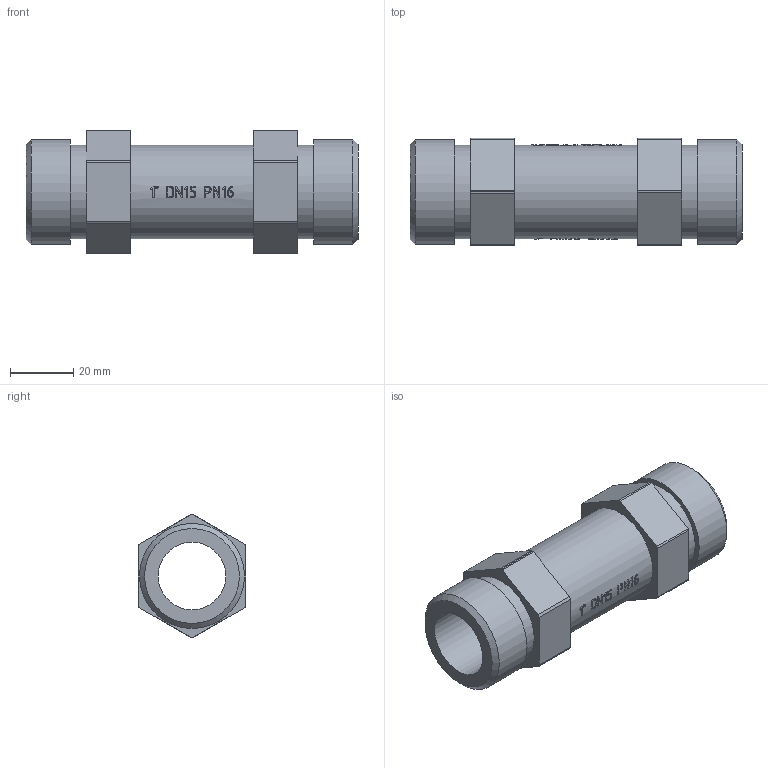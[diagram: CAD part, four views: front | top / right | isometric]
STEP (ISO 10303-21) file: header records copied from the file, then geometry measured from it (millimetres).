
FILE_DESCRIPTION(('TFLEX Exchange Step'),'2;1');
FILE_NAME('Repair insert VTp.789.105.05.stp', '2023-08-31T17:21:34+03:00',('denis'),('Unknown organisation'),'TFLEX Exchange 2023.0','T-FLEX CAD','Unknown authorisation');
FILE_SCHEMA( ('AUTOMOTIVE_DESIGN { 1 0 10303 214 1 1 1 1 }') );
Length unit declared in the file: millimetre
Products named in the file (1): Nodes
Bounding box: 105 x 34 x 38.9 mm (x, y, z)
Volume: 47601.6 mm3; surface area: 20289.6 mm2
Topology: 1 solids, 1 shells, 345 faces, 942 edges, 628 vertices
Faces by surface type: bspline 140, plane 136, cylinder 67, cone 2
Full cylindrical faces by diameter (mm): 21.5 x1, 29.6 x3, 33.2 x2
Entity records: 14174 total; most frequent: CARTESIAN_POINT 6719, ORIENTED_EDGE 1884, DIRECTION 951, EDGE_CURVE 942, VERTEX_POINT 628, B_SPLINE_CURVE_WITH_KNOTS 510, EDGE_LOOP 376, FACE_BOUND 376
